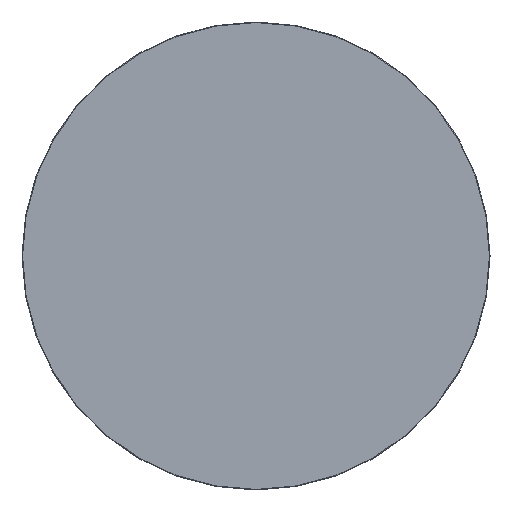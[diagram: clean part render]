
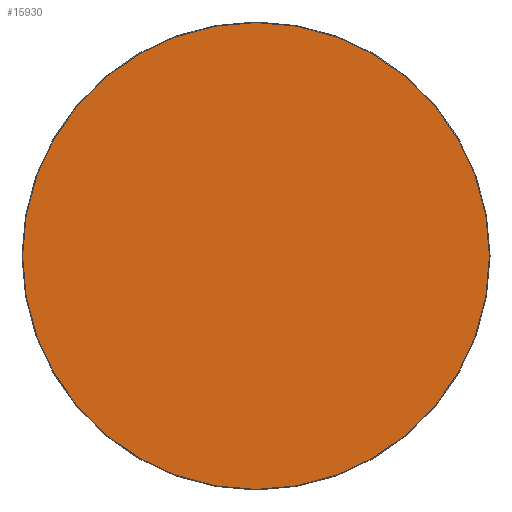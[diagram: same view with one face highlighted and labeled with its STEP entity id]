
A CAD part, top view. The second image highlights one B-rep face of the part: STEP entity #15930.
In plain terms, the highlighted planar face has unit normal (0, 0, 1).
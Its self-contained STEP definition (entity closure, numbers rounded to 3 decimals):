
#15855=CARTESIAN_POINT('',(0.,0.,20.));
#15856=DIRECTION('',(1.,0.,0.));
#15857=DIRECTION('',(0.,0.,1.));
#15858=AXIS2_PLACEMENT_3D('',#15855,#15857,#15856);
#15859=PLANE('',#15858);
#15860=CARTESIAN_POINT('',(-0.5,-598.5,20.));
#15861=VERTEX_POINT('',#15860);
#15862=CARTESIAN_POINT('',(0.5,-598.5,20.));
#15863=VERTEX_POINT('',#15862);
#15864=CARTESIAN_POINT('',(-0.5,-598.5,20.));
#15865=DIRECTION('',(1.,0.,0.));
#15866=VECTOR('',#15865,1.);
#15867=LINE('',#15864,#15866);
#15868=EDGE_CURVE('',#15861,#15863,#15867,.T.);
#15869=ORIENTED_EDGE('E105',*,*,#15868,.T.);
#15870=CARTESIAN_POINT('',(598.5,-0.5,20.));
#15871=VERTEX_POINT('',#15870);
#15872=CARTESIAN_POINT('',(0.5,-0.5,20.));
#15873=DIRECTION('',(0.,-1.,0.));
#15874=DIRECTION('',(0.,-0.,1.));
#15875=AXIS2_PLACEMENT_3D('',#15872,#15874,#15873);
#15876=CIRCLE('',#15875,598.);
#15877=EDGE_CURVE('',#15863,#15871,#15876,.T.);
#15878=ORIENTED_EDGE('E107',*,*,#15877,.T.);
#15879=CARTESIAN_POINT('',(598.5,0.5,20.));
#15880=VERTEX_POINT('',#15879);
#15881=CARTESIAN_POINT('',(598.5,-0.5,20.));
#15882=DIRECTION('',(0.,1.,0.));
#15883=VECTOR('',#15882,1.);
#15884=LINE('',#15881,#15883);
#15885=EDGE_CURVE('',#15871,#15880,#15884,.T.);
#15886=ORIENTED_EDGE('E109',*,*,#15885,.T.);
#15887=CARTESIAN_POINT('',(0.5,598.5,20.));
#15888=VERTEX_POINT('',#15887);
#15889=CARTESIAN_POINT('',(0.5,0.5,20.));
#15890=DIRECTION('',(1.,0.,0.));
#15891=DIRECTION('',(0.,0.,1.));
#15892=AXIS2_PLACEMENT_3D('',#15889,#15891,#15890);
#15893=CIRCLE('',#15892,598.);
#15894=EDGE_CURVE('',#15880,#15888,#15893,.T.);
#15895=ORIENTED_EDGE('E111',*,*,#15894,.T.);
#15896=CARTESIAN_POINT('',(-0.5,598.5,20.));
#15897=VERTEX_POINT('',#15896);
#15898=CARTESIAN_POINT('',(0.5,598.5,20.));
#15899=DIRECTION('',(-1.,0.,0.));
#15900=VECTOR('',#15899,1.);
#15901=LINE('',#15898,#15900);
#15902=EDGE_CURVE('',#15888,#15897,#15901,.T.);
#15903=ORIENTED_EDGE('E113',*,*,#15902,.T.);
#15904=CARTESIAN_POINT('',(-598.5,0.5,20.));
#15905=VERTEX_POINT('',#15904);
#15906=CARTESIAN_POINT('',(-0.5,0.5,20.));
#15907=DIRECTION('',(0.,1.,0.));
#15908=DIRECTION('',(0.,0.,1.));
#15909=AXIS2_PLACEMENT_3D('',#15906,#15908,#15907);
#15910=CIRCLE('',#15909,598.);
#15911=EDGE_CURVE('',#15897,#15905,#15910,.T.);
#15912=ORIENTED_EDGE('E115',*,*,#15911,.T.);
#15913=CARTESIAN_POINT('',(-598.5,-0.5,20.));
#15914=VERTEX_POINT('',#15913);
#15915=CARTESIAN_POINT('',(-598.5,0.5,20.));
#15916=DIRECTION('',(0.,-1.,0.));
#15917=VECTOR('',#15916,1.);
#15918=LINE('',#15915,#15917);
#15919=EDGE_CURVE('',#15905,#15914,#15918,.T.);
#15920=ORIENTED_EDGE('E117',*,*,#15919,.T.);
#15921=CARTESIAN_POINT('',(-0.5,-0.5,20.));
#15922=DIRECTION('',(-1.,0.,0.));
#15923=DIRECTION('',(0.,0.,1.));
#15924=AXIS2_PLACEMENT_3D('',#15921,#15923,#15922);
#15925=CIRCLE('',#15924,598.);
#15926=EDGE_CURVE('',#15914,#15861,#15925,.T.);
#15927=ORIENTED_EDGE('E119',*,*,#15926,.T.);
#15928=EDGE_LOOP('',(#15869,#15878,#15886,#15895,#15903,#15912,#15920,#15927));
#15929=FACE_OUTER_BOUND('',#15928,.T.);
#15930=ADVANCED_FACE('F2',(#15929),#15859,.T.);
